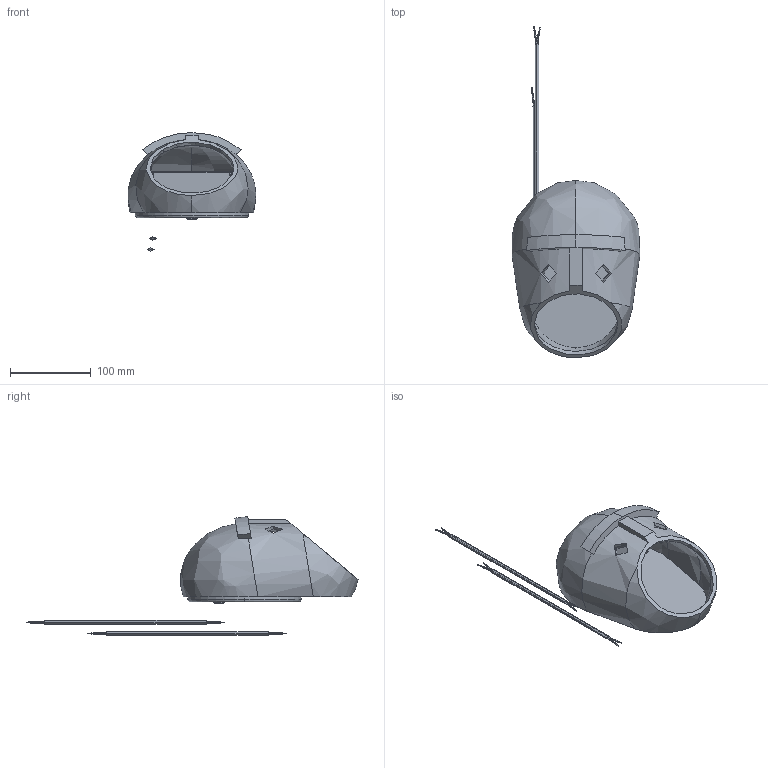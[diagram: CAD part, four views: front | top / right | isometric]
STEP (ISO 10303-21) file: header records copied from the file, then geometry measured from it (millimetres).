
FILE_DESCRIPTION (( 'STEP AP214' ), '1' );
FILE_NAME ('A000925_Creations_Default_BERT_19-10-2018.step', '2018-10-19T07:16:58', ( '' ), ( '' ), 'SwSTEP 2.0', 'SolidWorks 2017', '' );
FILE_SCHEMA (( 'AUTOMOTIVE_DESIGN' ));
Length unit declared in the file: millimetre
Products named in the file (21): P000780; EN ISO 10642 - M3 x 16 - 16N_EN ISO 10642 - M3 x 16 - 16N; A000915; P002659; ISO 7380 - M3 x 10 - 10N_ISO 7380 - M3 x 10 - 10N; P002522; DIN EN ISO 7045 - M3 x 8 - Z - 8N_DIN EN ISO 7045 - M3 x 8 - Z - 8N; P002221; A000925_Creations_Default_BERT_19-10-2018; P002521; P001935; P002375; P002325; P002653; P002709_120-14-C0450-TL; P002591; DIN 6797-A3.2_DIN 6797-A3.2; DIN 985 - M3 - N; P002654; P000480; P002326
Assembly tree (34 placements, depth 3):
  A000925_Creations_Default_BERT_19-10-2018
    P002591
    A000915
      P002326
      P002521
      P002522
      P002653
      P002654
      P002221
      P000480
      P001935  x3
      P002325
      P002709_120-14-C0450-TL
      DIN 985 - M3 - N  x8
      P002659
      P000780
      EN ISO 10642 - M3 x 16 - 16N_EN ISO 10642 - M3 x 16 - 16N  x4
      P002375  x2
      ISO 7380 - M3 x 10 - 10N_ISO 7380 - M3 x 10 - 10N  x2
      DIN 6797-A3.2_DIN 6797-A3.2
      DIN EN ISO 7045 - M3 x 8 - Z - 8N_DIN EN ISO 7045 - M3 x 8 - Z - 8N
Bounding box: 157.83 x 409.92 x 146.64 mm (x, y, z)
Volume: 731696.4 mm3; surface area: 279612.5 mm2
Topology: 43 solids, 43 shells, 1730 faces, 4284 edges, 2701 vertices
Faces by surface type: plane 854, cylinder 423, bspline 208, cone 187, torus 48, sphere 10
Entity records: 54609 total; most frequent: CARTESIAN_POINT 26780, ORIENTED_EDGE 5600, DIRECTION 4912, EDGE_CURVE 2800, VERTEX_POINT 1801, VECTOR 1690, LINE 1690, AXIS2_PLACEMENT_3D 1611
